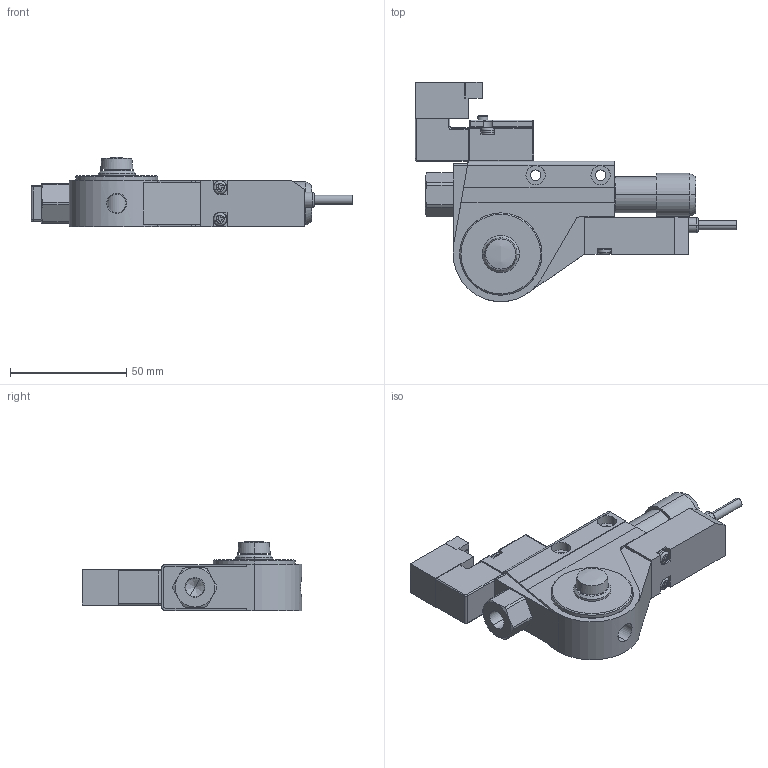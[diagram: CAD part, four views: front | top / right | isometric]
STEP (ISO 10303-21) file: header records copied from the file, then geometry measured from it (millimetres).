
FILE_DESCRIPTION( (''), '2;1');
FILE_NAME ('WS50.4456.CVF-2-###AB#A#_15693.stp','2020-11-09T14:41:00',(''),(''),'spGate 14.4.8','','');
FILE_SCHEMA (('AUTOMOTIVE_DESIGN'));
Length unit declared in the file: millimetre
Products named in the file (15): Assembly; CVF-2_z___^_C; _c_M_e; P5142_d_____1; MSS-01; _J_K_~_C_^Assy; P5142_d_____2; P5142_d_____3; P5142_d_____4; P5142_d_____5; _v___O_u___b_N_2; _v___O_u___b_N_3; _v___O_u___b_N_4; _v___O_u___b_N_5; MVS-030ABコンバム搭載用
Assembly tree (14 placements, depth 2):
  Assembly
    CVF-2_z___^_C
    _c_M_e
    P5142_d_____1
    MSS-01
    _J_K_~_C_^Assy
    P5142_d_____2
    P5142_d_____3
    P5142_d_____4
    P5142_d_____5
    _v___O_u___b_N_2
    _v___O_u___b_N_3
    _v___O_u___b_N_4
    _v___O_u___b_N_5
    MVS-030ABコンバム搭載用
Bounding box: 138.71 x 94.5 x 29.8 mm (x, y, z)
Volume: 100175.6 mm3; surface area: 35282.8 mm2
Topology: 14 solids, 14 shells, 489 faces, 1160 edges, 734 vertices
Faces by surface type: plane 221, cylinder 199, bspline 60, sphere 9
Entity records: 24588 total; most frequent: CARTESIAN_POINT 3672, DIRECTION 2311, ORIENTED_EDGE 2300, COLOUR_RGB 1653, PRESENTATION_STYLE_ASSIGNMENT 1653, STYLED_ITEM 1653, EDGE_CURVE 1150, DRAUGHTING_PRE_DEFINED_CURVE_FONT 1150
